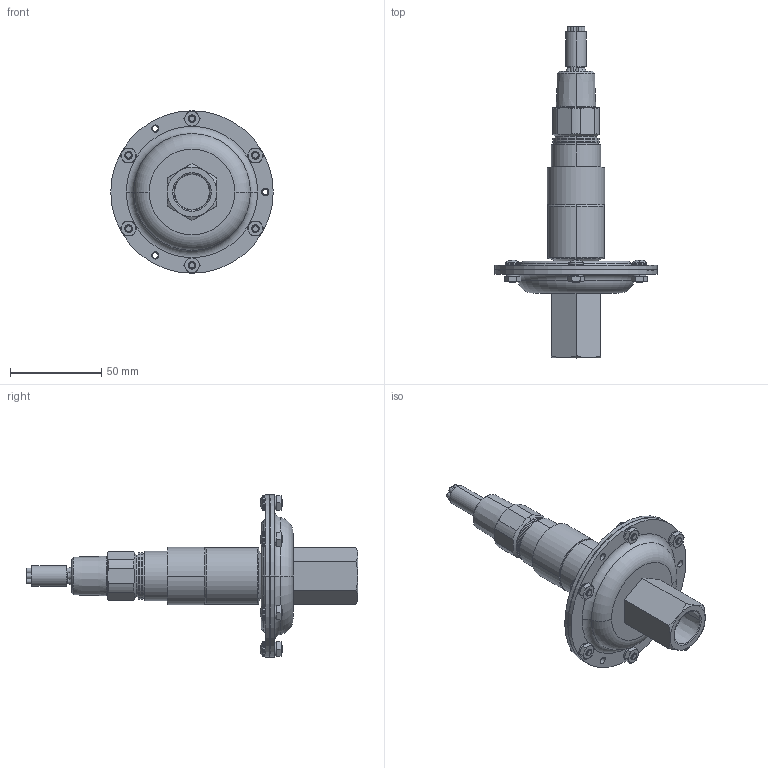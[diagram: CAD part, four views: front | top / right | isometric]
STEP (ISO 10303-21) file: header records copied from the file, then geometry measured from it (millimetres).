
FILE_DESCRIPTION (( 'STEP AP214' ), '1' );
FILE_NAME ('12SXXNW_1_2.STEP', '2025-04-02T16:57:53', ( '' ), ( '' ), 'SwSTEP 2.0', 'SolidWorks 2023', '' );
FILE_SCHEMA (( 'AUTOMOTIVE_DESIGN' ));
Length unit declared in the file: inch
Products named in the file (1): 12SXXNW_1_2
Bounding box: 88.9 x 181.65 x 88.9 mm (x, y, z)
Surface area: 51647.6 mm2 (no closed solid volume)
Topology: 0 solids, 37 shells, 555 faces, 1766 edges, 1216 vertices
Faces by surface type: plane 189, cylinder 157, cone 139, torus 48, sphere 12, bspline 10
Entity records: 24680 total; most frequent: CARTESIAN_POINT 10037, DIRECTION 3044, ORIENTED_EDGE 2840, EDGE_CURVE 1766, AXIS2_PLACEMENT_3D 1275, VERTEX_POINT 1216, CIRCLE 729, EDGE_LOOP 641
